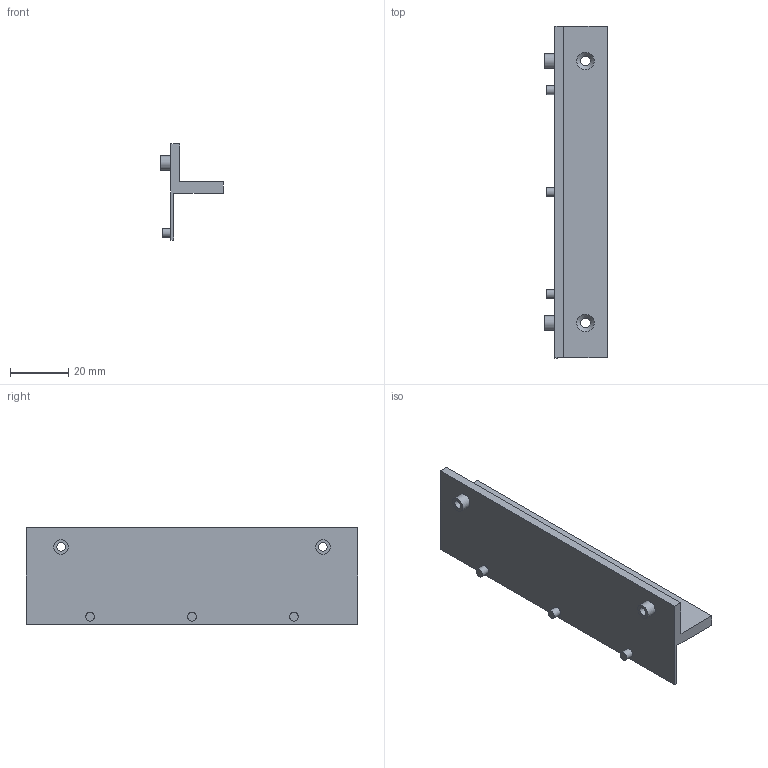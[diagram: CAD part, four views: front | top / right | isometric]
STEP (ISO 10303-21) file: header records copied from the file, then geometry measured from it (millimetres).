
FILE_DESCRIPTION(/* description */ (''),/* implementation_level */ '2;1');
FILE_NAME(/* name */ 'USB Hub Mount.step',/* time_stamp */ '2024-02-05T17:42:33+01:00',/* author */ (''),/* organization */ (''),/* preprocessor_version */ 'ST-DEVELOPER v20',/* originating_system */ 'Autodesk Translation Framework v12.14.0.127',/* authorisation */ '');
FILE_SCHEMA (('AUTOMOTIVE_DESIGN { 1 0 10303 214 3 1 1 }'));
Length unit declared in the file: millimetre
Products named in the file (1): USB Hub Mount
Bounding box: 21.5 x 114 x 33 mm (x, y, z)
Volume: 14498.1 mm3; surface area: 12206.6 mm2
Topology: 1 solids, 1 shells, 26 faces, 55 edges, 36 vertices
Faces by surface type: plane 15, cylinder 9, cone 2
Full cylindrical faces by diameter (mm): 2.929 x2, 3 x3, 3.332 x2, 5 x2
Entity records: 752 total; most frequent: DIRECTION 129, CARTESIAN_POINT 118, ORIENTED_EDGE 110, EDGE_CURVE 55, AXIS2_PLACEMENT_3D 47, EDGE_LOOP 39, VERTEX_POINT 36, LINE 35
